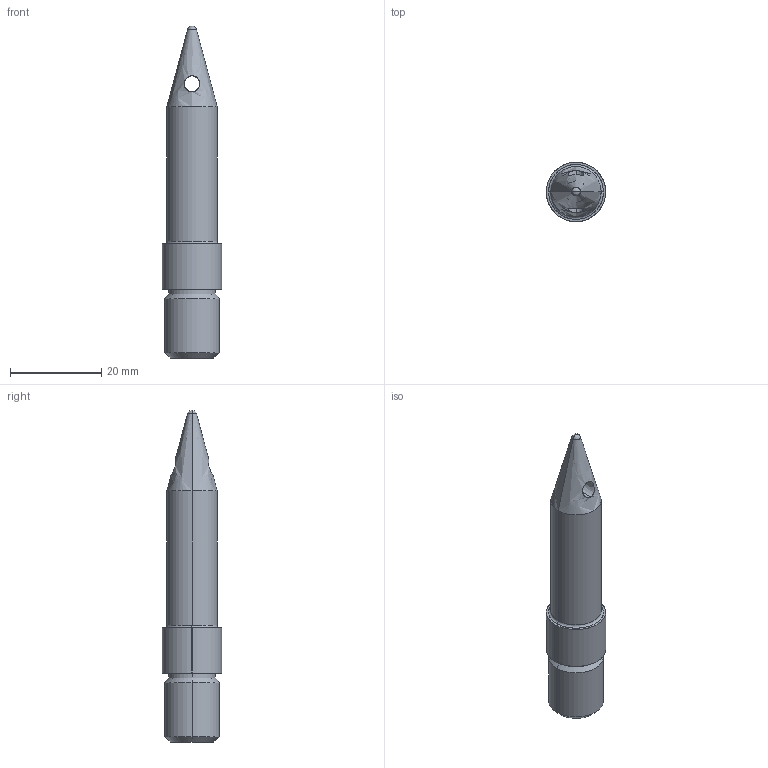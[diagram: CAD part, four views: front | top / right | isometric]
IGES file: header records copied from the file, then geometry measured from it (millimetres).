
Global section: file name: E:\UnigraphicsGraphicData\MISUMI_PRESS-PARTS\IGES\3d_slpsh13-p11.00-b30-t10_02958_r00.igs; native system: NX V5.0; preprocessor: UGS NX IGES V5.0; author: MISUMI; date: 20110105.162801; units: millimetre
Bounding box: 13 x 13 x 72.66 mm (x, y, z)
Surface area: 2606 mm2 (no closed solid volume)
Topology: 0 solids, 0 shells, 25 faces, 156 edges, 154 vertices
Faces by surface type: bspline 25
